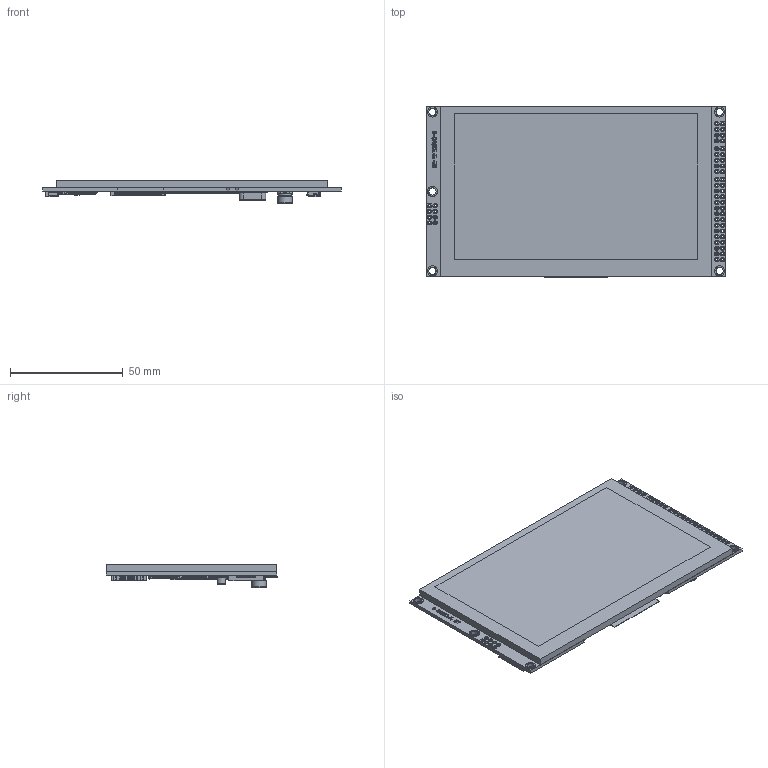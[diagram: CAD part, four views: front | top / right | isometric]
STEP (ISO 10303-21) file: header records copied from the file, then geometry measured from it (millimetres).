
FILE_DESCRIPTION(('HOOPS Exchange Step'),'2;1');
FILE_NAME('\\Server-1\e\公共文件夹\7.产品资料库\彩色-TFT\5寸\ER-TFTM050-3\3D\ER-TFTM050-3_3d.step','2021-01-28T10:07:20+08:00',('Administrator'),('Unknown organisation'),'HOOPS Exchange 2018.2','glovius.exe','Unknown authorisation');
FILE_SCHEMA( ('AUTOMOTIVE_DESIGN { 1 0 10303 214 1 1 1 1 }') );
Length unit declared in the file: millimetre
Products named in the file (11): 50-3 PCB-1; 连接器_50-Pin-1; 连接器_50-Pin - 副本-1; 主控IC_new-1; 固态电容-1; 连接器_6-Pin-1; SD卡座-1; FLASH_IC-1; 晶振-1; Default; ER-TFTM050-3
Assembly tree (12 placements, depth 3):
  ER-TFTM050-3
    Default
      50-3 PCB-1
      连接器_50-Pin-1
      连接器_50-Pin - 副本-1
      主控IC_new-1
      固态电容-1
      连接器_6-Pin-1  x2
      SD卡座-1
      FLASH_IC-1  x2
      晶振-1
Bounding box: 132.7 x 76.3 x 10.31 mm (x, y, z)
Volume: 46664.6 mm3; surface area: 51119.1 mm2
Topology: 233 solids, 234 shells, 9697 faces, 24991 edges, 15941 vertices
Faces by surface type: bspline 9697
Entity records: 909072 total; most frequent: CARTESIAN_POINT 602692, B_SPLINE_CURVE_WITH_KNOTS 63814, DEFINITIONAL_REPRESENTATION 47110, PCURVE 47110, ORIENTED_EDGE 47110, INTERSECTION_CURVE 23555, EDGE_CURVE 23555, VERTEX_POINT 15182
